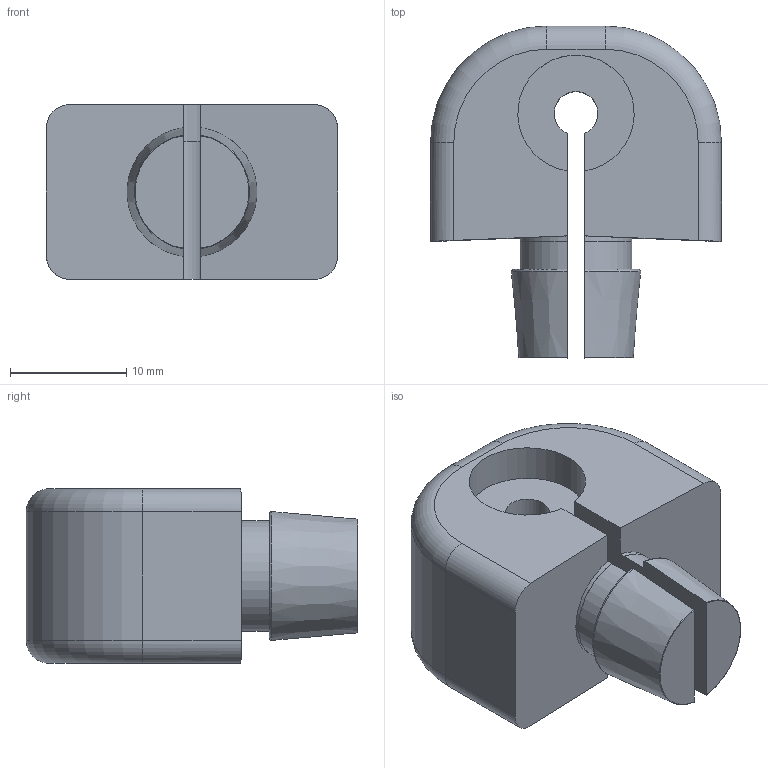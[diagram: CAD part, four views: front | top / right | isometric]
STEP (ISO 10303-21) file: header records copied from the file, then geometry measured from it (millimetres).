
FILE_DESCRIPTION (( 'STEP AP214' ), '1' );
FILE_NAME ('L15137.step', '2024-12-03T16:18:32', ( '' ), ( '' ), 'SwSTEP 2.0', 'SolidWorks 2023', '' );
FILE_SCHEMA (( 'AUTOMOTIVE_DESIGN' ));
Length unit declared in the file: millimetre
Products named in the file (1): L15137
Bounding box: 25 x 28.5 x 15 mm (x, y, z)
Volume: 6254.7 mm3; surface area: 2836.8 mm2
Topology: 1 solids, 1 shells, 40 faces, 106 edges, 68 vertices
Faces by surface type: plane 16, cylinder 14, torus 8, cone 2
Entity records: 1355 total; most frequent: CARTESIAN_POINT 349, ORIENTED_EDGE 212, DIRECTION 204, EDGE_CURVE 106, AXIS2_PLACEMENT_3D 75, VERTEX_POINT 68, VECTOR 54, LINE 54
